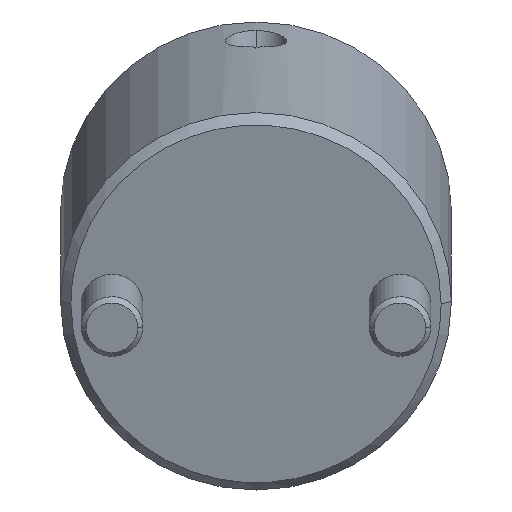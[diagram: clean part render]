
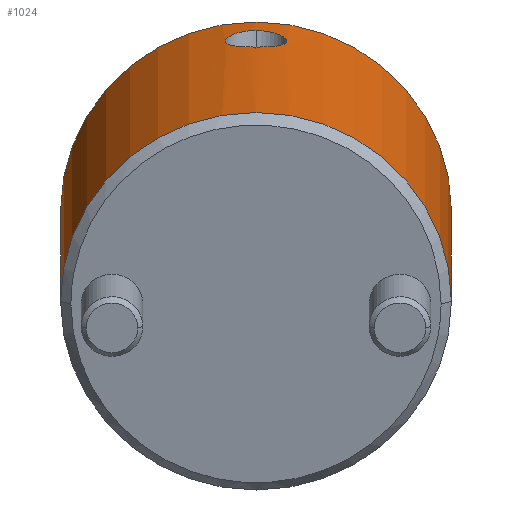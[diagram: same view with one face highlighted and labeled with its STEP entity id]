
A CAD part, front view. The second image highlights one B-rep face of the part: STEP entity #1024.
In plain terms, the highlighted cylindrical face has radius 19 mm (diameter 38 mm), a partial arc.
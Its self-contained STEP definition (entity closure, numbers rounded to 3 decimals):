
#763=CARTESIAN_POINT('Vertex',(0.,19.,1.)) ;
#766=CARTESIAN_POINT('Axis2P3D Location',(0.,0.,1.)) ;
#770=CARTESIAN_POINT('Vertex',(0.,-19.,1.)) ;
#922=CARTESIAN_POINT('Axis2P3D Location',(0.,0.,-1.8)) ;
#927=CARTESIAN_POINT('Line Origine',(0.,19.,-1.8)) ;
#931=CARTESIAN_POINT('Vertex',(0.,19.,35.)) ;
#934=CARTESIAN_POINT('Axis2P3D Location',(0.,0.,35.)) ;
#938=CARTESIAN_POINT('Vertex',(0.,-19.,35.)) ;
#941=CARTESIAN_POINT('Line Origine',(0.,-19.,-1.8)) ;
#953=CARTESIAN_POINT('Control Point',(19.,0.,31.81)) ;
#954=CARTESIAN_POINT('Control Point',(19.,0.081,31.81)) ;
#955=CARTESIAN_POINT('Control Point',(19.,0.161,31.807)) ;
#956=CARTESIAN_POINT('Control Point',(18.999,0.242,31.801)) ;
#957=CARTESIAN_POINT('Control Point',(18.995,0.484,31.775)) ;
#958=CARTESIAN_POINT('Control Point',(18.987,0.724,31.722)) ;
#959=CARTESIAN_POINT('Control Point',(18.98,0.886,31.673)) ;
#960=CARTESIAN_POINT('Control Point',(18.964,1.197,31.555)) ;
#961=CARTESIAN_POINT('Control Point',(18.943,1.487,31.395)) ;
#962=CARTESIAN_POINT('Control Point',(18.931,1.628,31.302)) ;
#963=CARTESIAN_POINT('Control Point',(18.9,1.968,31.046)) ;
#964=CARTESIAN_POINT('Control Point',(18.866,2.263,30.733)) ;
#965=CARTESIAN_POINT('Control Point',(18.846,2.422,30.523)) ;
#966=CARTESIAN_POINT('Control Point',(18.808,2.698,30.073)) ;
#967=CARTESIAN_POINT('Control Point',(18.781,2.88,29.574)) ;
#968=CARTESIAN_POINT('Control Point',(18.77,2.946,29.312)) ;
#969=CARTESIAN_POINT('Control Point',(18.76,3.011,28.876)) ;
#970=CARTESIAN_POINT('Control Point',(18.762,3.001,28.44)) ;
#971=CARTESIAN_POINT('Control Point',(18.764,2.985,28.267)) ;
#972=CARTESIAN_POINT('Control Point',(18.775,2.917,27.841)) ;
#973=CARTESIAN_POINT('Control Point',(18.796,2.779,27.436)) ;
#974=CARTESIAN_POINT('Control Point',(18.812,2.67,27.204)) ;
#975=CARTESIAN_POINT('Control Point',(18.854,2.364,26.692)) ;
#976=CARTESIAN_POINT('Control Point',(18.903,1.944,26.275)) ;
#977=CARTESIAN_POINT('Control Point',(18.93,1.671,26.07)) ;
#978=CARTESIAN_POINT('Control Point',(18.968,1.183,25.804)) ;
#979=CARTESIAN_POINT('Control Point',(18.991,0.644,25.656)) ;
#980=CARTESIAN_POINT('Control Point',(18.997,0.43,25.617)) ;
#981=CARTESIAN_POINT('Control Point',(19.,0.216,25.598)) ;
#982=CARTESIAN_POINT('Control Point',(19.,0.,25.598)) ;
#983=CARTESIAN_POINT('Vertex',(19.,0.,31.81)) ;
#985=CARTESIAN_POINT('Vertex',(19.,0.,25.598)) ;
#989=CARTESIAN_POINT('Control Point',(19.,0.,25.598)) ;
#990=CARTESIAN_POINT('Control Point',(19.,-0.084,25.598)) ;
#991=CARTESIAN_POINT('Control Point',(19.,-0.168,25.601)) ;
#992=CARTESIAN_POINT('Control Point',(18.999,-0.251,25.607)) ;
#993=CARTESIAN_POINT('Control Point',(18.994,-0.501,25.633)) ;
#994=CARTESIAN_POINT('Control Point',(18.986,-0.748,25.686)) ;
#995=CARTESIAN_POINT('Control Point',(18.979,-0.914,25.733)) ;
#996=CARTESIAN_POINT('Control Point',(18.962,-1.232,25.849)) ;
#997=CARTESIAN_POINT('Control Point',(18.939,-1.529,26.007)) ;
#998=CARTESIAN_POINT('Control Point',(18.927,-1.672,26.097)) ;
#999=CARTESIAN_POINT('Control Point',(18.895,-2.012,26.346)) ;
#1000=CARTESIAN_POINT('Control Point',(18.861,-2.304,26.651)) ;
#1001=CARTESIAN_POINT('Control Point',(18.841,-2.458,26.853)) ;
#1002=CARTESIAN_POINT('Control Point',(18.804,-2.725,27.289)) ;
#1003=CARTESIAN_POINT('Control Point',(18.778,-2.896,27.771)) ;
#1004=CARTESIAN_POINT('Control Point',(18.769,-2.956,28.026)) ;
#1005=CARTESIAN_POINT('Control Point',(18.758,-3.025,28.544)) ;
#1006=CARTESIAN_POINT('Control Point',(18.764,-2.988,29.068)) ;
#1007=CARTESIAN_POINT('Control Point',(18.771,-2.942,29.332)) ;
#1008=CARTESIAN_POINT('Control Point',(18.79,-2.822,29.759)) ;
#1009=CARTESIAN_POINT('Control Point',(18.817,-2.634,30.157)) ;
#1010=CARTESIAN_POINT('Control Point',(18.829,-2.547,30.312)) ;
#1011=CARTESIAN_POINT('Control Point',(18.86,-2.309,30.68)) ;
#1012=CARTESIAN_POINT('Control Point',(18.894,-2.017,30.997)) ;
#1013=CARTESIAN_POINT('Control Point',(18.914,-1.822,31.168)) ;
#1014=CARTESIAN_POINT('Control Point',(18.954,-1.376,31.487)) ;
#1015=CARTESIAN_POINT('Control Point',(18.983,-0.869,31.695)) ;
#1016=CARTESIAN_POINT('Control Point',(18.994,-0.578,31.773)) ;
#1017=CARTESIAN_POINT('Control Point',(19.,-0.291,31.81)) ;
#1018=CARTESIAN_POINT('Control Point',(19.,0.,31.81)) ;
#767=DIRECTION('Axis2P3D Direction',(0.,0.,1.)) ;
#923=DIRECTION('Axis2P3D Direction',(0.,-0.,1.)) ;
#924=DIRECTION('Axis2P3D XDirection',(0.,-1.,0.)) ;
#928=DIRECTION('Vector Direction',(0.,0.,1.)) ;
#935=DIRECTION('Axis2P3D Direction',(0.,-0.,1.)) ;
#942=DIRECTION('Vector Direction',(0.,0.,1.)) ;
#768=AXIS2_PLACEMENT_3D('Circle Axis2P3D',#766,#767,$) ;
#925=AXIS2_PLACEMENT_3D('Cylinder Axis2P3D',#922,#923,#924) ;
#936=AXIS2_PLACEMENT_3D('Circle Axis2P3D',#934,#935,$) ;
#947=ORIENTED_EDGE('',*,*,#933,.F.) ;
#948=ORIENTED_EDGE('',*,*,#940,.T.) ;
#949=ORIENTED_EDGE('',*,*,#945,.T.) ;
#950=ORIENTED_EDGE('',*,*,#772,.F.) ;
#1021=ORIENTED_EDGE('',*,*,#987,.T.) ;
#1022=ORIENTED_EDGE('',*,*,#1019,.T.) ;
#1023=FACE_BOUND('',#1020,.T.) ;
#929=VECTOR('Line Direction',#928,1.) ;
#943=VECTOR('Line Direction',#942,1.) ;
#1024=ADVANCED_FACE('MANIFOLD_SOLID_BREP #1116',(#951,#1023),#926,.T.) ;
#952=B_SPLINE_CURVE_WITH_KNOTS('',5,(#953,#954,#955,#956,#957,#958,#959,#960,#961,#962,#963,#964,#965,#966,#967,#968,#969,#970,#971,#972,#973,#974,#975,#976,#977,#978,#979,#980,#981,#982),.UNSPECIFIED.,.F.,.U.,(6,3,3,3,3,3,3,3,3,6),(0.,0.582,1.76,2.967,4.812,6.638,7.845,9.65,12.048,13.588),.UNSPECIFIED.) ;
#988=B_SPLINE_CURVE_WITH_KNOTS('',5,(#989,#990,#991,#992,#993,#994,#995,#996,#997,#998,#999,#1000,#1001,#1002,#1003,#1004,#1005,#1006,#1007,#1008,#1009,#1010,#1011,#1012,#1013,#1014,#1015,#1016,#1017,#1018),.UNSPECIFIED.,.F.,.U.,(6,3,3,3,3,3,3,3,3,6),(0.,0.601,1.805,3.01,4.817,6.623,8.448,9.673,11.498,13.589),.UNSPECIFIED.) ;
#769=CIRCLE('generated circle',#768,19.) ;
#937=CIRCLE('generated circle',#936,19.) ;
#926=CYLINDRICAL_SURFACE('generated cylinder',#925,19.) ;
#772=EDGE_CURVE('',#764,#771,#769,.F.) ;
#933=EDGE_CURVE('',#932,#764,#930,.F.) ;
#940=EDGE_CURVE('',#932,#939,#937,.F.) ;
#945=EDGE_CURVE('',#939,#771,#944,.F.) ;
#987=EDGE_CURVE('',#984,#986,#952,.T.) ;
#1019=EDGE_CURVE('',#986,#984,#988,.T.) ;
#946=EDGE_LOOP('',(#947,#948,#949,#950)) ;
#1020=EDGE_LOOP('',(#1021,#1022)) ;
#951=FACE_OUTER_BOUND('',#946,.T.) ;
#930=LINE('Line',#927,#929) ;
#944=LINE('Line',#941,#943) ;
#764=VERTEX_POINT('',#763) ;
#771=VERTEX_POINT('',#770) ;
#932=VERTEX_POINT('',#931) ;
#939=VERTEX_POINT('',#938) ;
#984=VERTEX_POINT('',#983) ;
#986=VERTEX_POINT('',#985) ;
